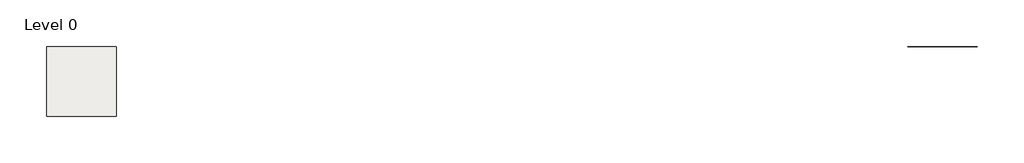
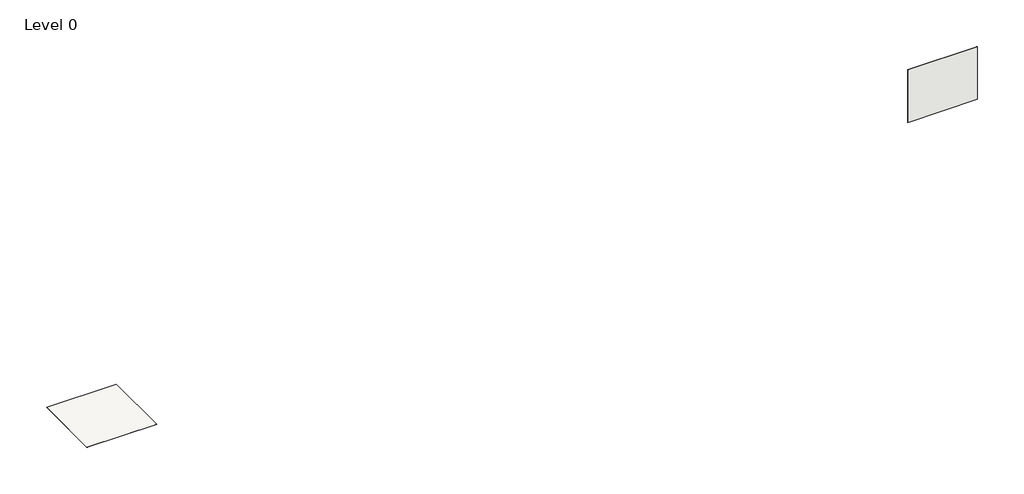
# One storey: 2 coverings.
"""IFC4 building model written with IfcOpenShell, lengths in millimetres."""

from ifc_helpers import new_model, si_unit, frame, origin, origin_with_axes, place, context, project, spatial, polyline, outline, extrude, element, save

model = new_model("IFC4")

# Units and contexts
model_context = context("Model", 3, world=origin())
ifc_project = project(units=[si_unit("LENGTHUNIT", "METRE", prefix="MILLI")], contexts=[model_context])

# Site, building, storey
site = spatial("IfcSite", under=ifc_project)
building = spatial("IfcBuilding", under=site)
storey = spatial("IfcBuildingStorey", under=building, Name="Level 0", Elevation=0.0)

# Coverings
placement = place(None, origin())
element("IfcCovering", 1, ObjectType="NBS_DeltaMembranes_ColdAppliedBitumenSolutions_MemtechLGB", at=placement, inside=storey, context=model_context, shape_type="SweptSolid", body=[
    extrude(outline(polyline([(0.0, -8300.0), (0.0, -5800.0), (2500.0, -5800.0), (2500.0, -8300.0), (0.0, -8300.0)])), frame((0.0, 0.0, -1.0), z_axis=(0.0, 0.0, 1.0), x_axis=(1.0, 0.0, 0.0)), (0.0, 0.0, 1.0), 1.0),
])
element("IfcCovering", 2, ObjectType="NBS_DeltaMembranes_ColdAppliedBitumenSolutions_MemtechLGB", at=placement, inside=storey, context=model_context, shape_type="SweptSolid", body=[
    extrude(outline(polyline([(30800.0, -5800.0), (33300.0, -5800.0), (33300.0, -5801.0), (30800.0, -5801.0), (30800.0, -5800.0)])), origin_with_axes(), (0.0, 0.0, 1.0), 2000.0),
])

save(model, "model.ifc")
